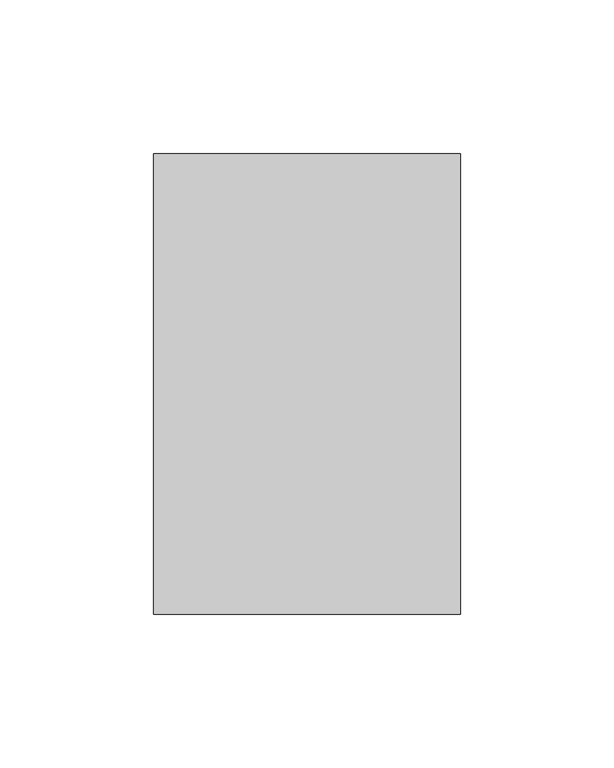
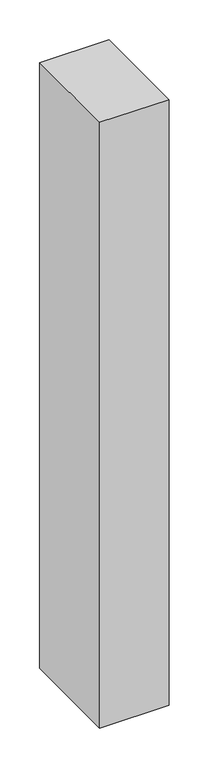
"""IFC4 building model written with IfcOpenShell, lengths in millimetres: member geometry, 矩形竖梃 : 教学楼 – 矩形竖梃 – 100x150mm."""

import ifcopenshell
import ifcopenshell.guid

model = None  # the IFC model being written
_history = None  # IfcOwnerHistory: only IFC2X3 demands one
_inside = {}  # id of a spatial element -> (the spatial element, [elements in it])
_under = {}  # id of a project, library or spatial element -> (it, [spatial elements below it])
_declared = {}  # id of a project -> (the project, [libraries it declares])
_typed = {}  # id of a type object -> (the type object, [elements of that type])
_made_of = {}  # id of a material, layer set ... -> (it, [elements and type objects made of it])


def new_model(schema):
    """Start an empty IFC model of exactly this schema.

    Asked for "IFC4X3", IfcOpenShell would pick the latest addendum, in which some entities
    have other attributes; the version numbers below select the first issue.
    IFC2X3 requires an IfcOwnerHistory on every rooted entity: one is made here for all.
    """
    global model, _history
    if schema == "IFC4X3":
        model = ifcopenshell.file(schema_version=(4, 3, 0, 0))
    else:
        model = ifcopenshell.file(schema=schema)
    _inside.clear()
    _under.clear()
    _declared.clear()
    _typed.clear()
    _made_of.clear()
    _history = None
    if model.schema == "IFC2X3":
        org = make("IfcOrganization", Name="unknown")
        user = make(
            "IfcPersonAndOrganization",
            ThePerson=make("IfcPerson", FamilyName="unknown"),
            TheOrganization=org,
        )
        app = make(
            "IfcApplication",
            ApplicationDeveloper=org,
            Version="unknown",
            ApplicationFullName="unknown",
            ApplicationIdentifier="unknown",
        )
        _history = make(
            "IfcOwnerHistory",
            OwningUser=user,
            OwningApplication=app,
            ChangeAction="ADDED",
            CreationDate=0,
        )
    return model


def make(cls, **values):
    """One entity of the class cls with the attributes given. An attribute that is None is left unset."""
    return model.create_entity(
        cls, **{name: value for name, value in values.items() if value is not None}
    )


def rooted(cls, **values):
    """An entity with a GlobalId (a new one), such as an element, a storey or a relation."""
    return make(cls, GlobalId=ifcopenshell.guid.new(), OwnerHistory=_history, **values)


def si_unit(unit_type, name, prefix=None):
    """IfcSIUnit, for example si_unit("LENGTHUNIT", "METRE", prefix="MILLI")."""
    return make("IfcSIUnit", UnitType=unit_type, Prefix=prefix, Name=name)


def assignment(units):
    """IfcUnitAssignment: the units of a project."""
    return None if units is None else make("IfcUnitAssignment", Units=units)


def point(xyz):
    """IfcCartesianPoint."""
    return None if xyz is None else make("IfcCartesianPoint", Coordinates=xyz)


def direction(xyz):
    """IfcDirection."""
    return None if xyz is None else make("IfcDirection", DirectionRatios=xyz)


def frame(location, z_axis=None, x_axis=None):
    """IfcAxis2Placement3D, a coordinate frame: its origin and axes. An axis left out is left unset."""
    return make(
        "IfcAxis2Placement3D",
        Location=point(location),
        Axis=direction(z_axis),
        RefDirection=direction(x_axis),
    )


def origin():
    """The frame at (0, 0, 0) with its axes left unset."""
    return frame((0.0, 0.0, 0.0))


def place(relative_to, where):
    """IfcLocalPlacement: puts the frame where relative to a parent placement (None: the world)."""
    return make(
        "IfcLocalPlacement", PlacementRelTo=relative_to, RelativePlacement=where
    )


def context(
    kind, dimensions, precision=None, world=None, true_north=None, identifier=None
):
    """IfcGeometricRepresentationContext, for example the 3D "Model" context."""
    return make(
        "IfcGeometricRepresentationContext",
        ContextIdentifier=identifier,
        ContextType=kind,
        CoordinateSpaceDimension=dimensions,
        Precision=precision,
        WorldCoordinateSystem=world,
        TrueNorth=true_north,
    )


def project(units=None, contexts=None):
    """IfcProject with its units and contexts."""
    return rooted(
        "IfcProject",
        Name="project",
        RepresentationContexts=contexts,
        UnitsInContext=assignment(units),
    )


def spatial(cls, under=None, at=None, **own):
    """A site, building, storey or space (cls), placed at a placement, below another one or the project."""
    s = rooted(cls, ObjectPlacement=at, **own)
    if under is not None:
        _under.setdefault(under.id(), (under, []))[1].append(s)
    return s


def polyline(points):
    """IfcPolyline through the points."""
    return make("IfcPolyline", Points=[point(p) for p in points])


def outline(outer, holes=None, kind="AREA"):
    """IfcArbitraryClosedProfileDef: a profile drawn as a closed curve; with holes, ...WithVoids."""
    if holes is None:
        return make("IfcArbitraryClosedProfileDef", ProfileType=kind, OuterCurve=outer)
    return make(
        "IfcArbitraryProfileDefWithVoids",
        ProfileType=kind,
        OuterCurve=outer,
        InnerCurves=holes,
    )


def extrude(swept, where, along, depth):
    """IfcExtrudedAreaSolid: the profile swept, set in the frame where, extruded along a direction by depth."""
    return make(
        "IfcExtrudedAreaSolid",
        SweptArea=swept,
        Position=where,
        ExtrudedDirection=direction(along),
        Depth=depth,
    )


def shape(context_of_items, identifier, shape_type, items):
    """IfcShapeRepresentation: the items that make up one representation, for example the "Body"."""
    return make(
        "IfcShapeRepresentation",
        ContextOfItems=context_of_items,
        RepresentationIdentifier=identifier,
        RepresentationType=shape_type,
        Items=items,
    )


def source(mapping_origin, context_of_items, identifier, shape_type, items):
    """IfcRepresentationMap: a shape defined once, which mapped items show again and again."""
    return make(
        "IfcRepresentationMap",
        MappingOrigin=mapping_origin,
        MappedRepresentation=shape(context_of_items, identifier, shape_type, items),
    )


def transform(
    local_origin,
    x_axis=None,
    y_axis=None,
    z_axis=None,
    scale=None,
    scale2=None,
    scale3=None,
    uniform=True,
):
    """IfcCartesianTransformationOperator3D, or its non-uniform kind. x_axis, y_axis, z_axis: its Axis1, 2, 3."""
    if uniform:
        return make(
            "IfcCartesianTransformationOperator3D",
            Axis1=direction(x_axis),
            Axis2=direction(y_axis),
            LocalOrigin=point(local_origin),
            Scale=scale,
            Axis3=direction(z_axis),
        )
    return make(
        "IfcCartesianTransformationOperator3DnonUniform",
        Axis1=direction(x_axis),
        Axis2=direction(y_axis),
        LocalOrigin=point(local_origin),
        Scale=scale,
        Axis3=direction(z_axis),
        Scale2=scale2,
        Scale3=scale3,
    )


def mapped(mapping_source, mapping_target):
    """IfcMappedItem: shows the shape of a source again, moved by a transform."""
    return make(
        "IfcMappedItem", MappingSource=mapping_source, MappingTarget=mapping_target
    )


def made_of(thing, what):
    """Note that an element or type object is made of a material, layer set ...; save() writes the relation."""
    if what is not None:
        _made_of.setdefault(what.id(), (what, []))[1].append(thing)
    return thing


def element(
    cls,
    number,
    at=None,
    inside=None,
    cuts=None,
    type_object=None,
    material=None,
    context=None,
    identifier="Body",
    shape_type=None,
    held_by="IfcProductDefinitionShape",
    body=None,
    shapes=None,
    **own,
):
    """One element of the class cls, such as IfcWall. Its Tag is "e" and its number.

    at: its placement. inside: the storey or other place that contains it. cuts: it is an
    opening in that element (IfcRelVoidsElement). A single representation is given by context,
    identifier, shape_type and body (its items); several are given by shapes. held_by: the class
    of the entity that holds the representations. save() writes the other relations.
    """
    e = rooted(cls, Tag="e%d" % number, ObjectPlacement=at, **own)
    if body is not None:
        shapes = [shape(context, identifier, shape_type, body)]
    if shapes is not None:
        e.Representation = make(held_by, Representations=shapes)
    if inside is not None:
        _inside.setdefault(inside.id(), (inside, []))[1].append(e)
    if cuts is not None:
        rooted(
            "IfcRelVoidsElement", RelatingBuildingElement=cuts, RelatedOpeningElement=e
        )
    if type_object is not None:
        _typed.setdefault(type_object.id(), (type_object, []))[1].append(e)
    return made_of(e, material)


def aggregate(whole, parts):
    """IfcRelAggregates: a whole, such as a stair, and the parts it consists of."""
    return rooted("IfcRelAggregates", RelatingObject=whole, RelatedObjects=parts)


def save(model, path):
    """Write the relations noted so far, then the file.

    IfcRelAggregates (storeys below a building ...), IfcRelContainedInSpatialStructure (elements
    in a storey), IfcRelDefinesByType, IfcRelAssociatesMaterial and IfcRelDeclares: one each for
    every whole, place, type object, material and project.
    """
    for whole, parts in _under.values():
        aggregate(whole, parts)
    for where, things in _inside.values():
        rooted(
            "IfcRelContainedInSpatialStructure",
            RelatedElements=things,
            RelatingStructure=where,
        )
    for kind, things in _typed.values():
        rooted("IfcRelDefinesByType", RelatedObjects=things, RelatingType=kind)
    for what, things in _made_of.values():
        rooted("IfcRelAssociatesMaterial", RelatedObjects=things, RelatingMaterial=what)
    for by, libraries in _declared.values():
        rooted("IfcRelDeclares", RelatingContext=by, RelatedDefinitions=libraries)
    model.write(path)


def member_a211941a(model_context):
    return source(origin(), model_context, "Body", "SweptSolid", [
        extrude(outline(polyline([(0.0, 75.0), (0.0, -75.0), (-100.0, -75.0), (-100.0, 75.0), (0.0, 75.0)])), frame((0.0, 0.0, -925.0), z_axis=(0.0, 0.0, 1.0), x_axis=(1.0, 0.0, 0.0)), (0.0, 0.0, 1.0), 925.0),
    ])


if __name__ == "__main__":
    model = new_model("IFC4")
    model_context = context("Model", 3, world=origin())
    ifc_project = project(units=[si_unit("LENGTHUNIT", "METRE", prefix="MILLI")], contexts=[model_context])
    site = spatial("IfcSite", under=ifc_project)
    building = spatial("IfcBuilding", under=site)
    placement = place(None, origin())
    member_shape = member_a211941a(model_context)
    element("IfcMember", 1, ObjectType="矩形竖梃 : 教学楼 – 矩形竖梃 – 100x150mm", at=placement, inside=building, context=model_context, shape_type="MappedRepresentation", body=[
        mapped(member_shape, transform((0.0, 0.0, 0.0), x_axis=(1.0, 0.0, 0.0), y_axis=(0.0, 1.0, 0.0), z_axis=(0.0, 0.0, 1.0))),
    ])
    save(model, "model.ifc")
